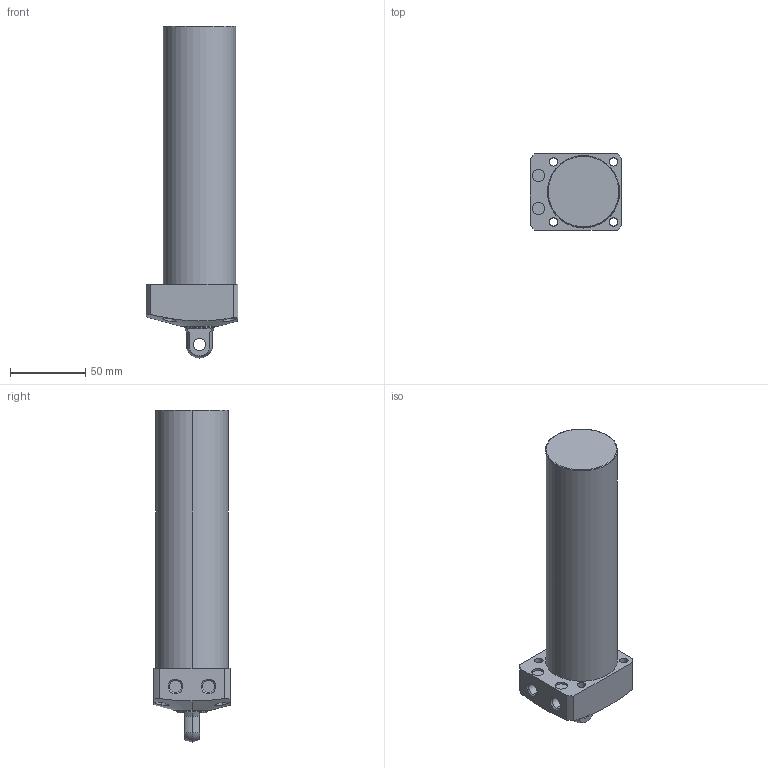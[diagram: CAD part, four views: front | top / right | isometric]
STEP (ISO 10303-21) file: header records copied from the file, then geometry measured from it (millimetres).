
FILE_DESCRIPTION (( 'STEP AP203' ), '1' );
FILE_NAME ('CLL-048CP-145.STEP', '2019-12-21T07:03:13', ( '' ), ( '' ), 'SwSTEP 2.0', 'SolidWorks 2015', '' );
FILE_SCHEMA (( 'CONFIG_CONTROL_DESIGN' ));
Length unit declared in the file: millimetre
Products named in the file (1): CLL-048CP-145
Bounding box: 61 x 51 x 221 mm (x, y, z)
Volume: 386581.8 mm3; surface area: 40756.4 mm2
Topology: 1 solids, 1 shells, 68 faces, 159 edges, 103 vertices
Faces by surface type: cylinder 35, plane 21, cone 8, sphere 2, torus 2
Entity records: 2390 total; most frequent: CARTESIAN_POINT 693, DIRECTION 357, ORIENTED_EDGE 318, EDGE_CURVE 159, AXIS2_PLACEMENT_3D 149, VERTEX_POINT 103, EDGE_LOOP 88, CIRCLE 80
